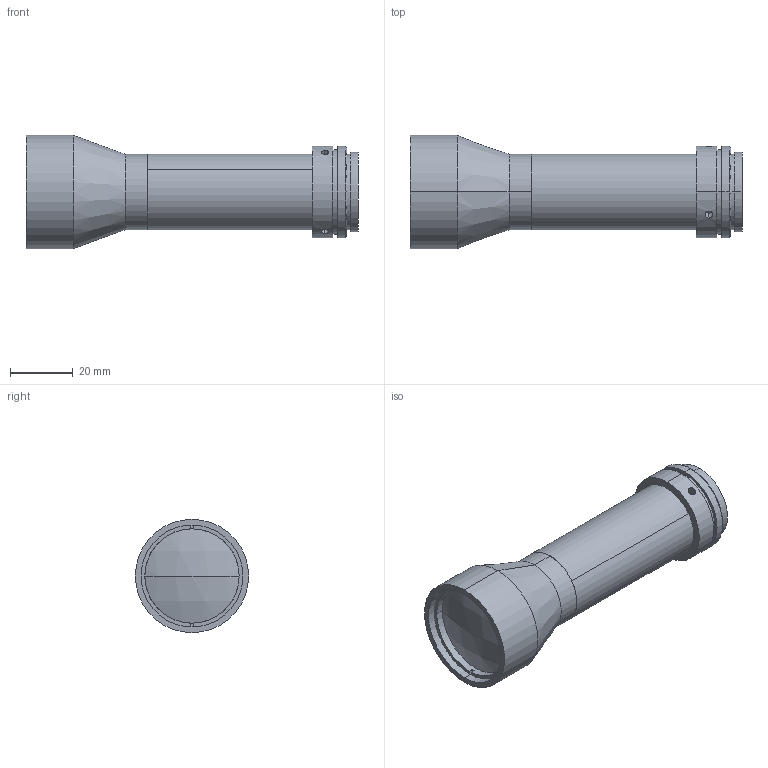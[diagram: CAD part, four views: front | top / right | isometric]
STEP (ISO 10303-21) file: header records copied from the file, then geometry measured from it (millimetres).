
FILE_DESCRIPTION (( 'STEP AP203' ), '1' );
FILE_NAME ('WD65HRT_05X_蚾饜芞_2012_410K_nV5.STEP', '2016-02-22T01:35:42', ( 'cherishsunshine' ), ( '' ), 'SwSTEP 2.0', 'SolidWorks 2014', '' );
FILE_SCHEMA (( 'CONFIG_CONTROL_DESIGN' ));
Length unit declared in the file: millimetre
Products named in the file (1): WD65HRT_05X_蚾饜芞_2012_410K_nV5
Bounding box: 105.56 x 36 x 36 mm (x, y, z)
Surface area: 13346.7 mm2 (no closed solid volume)
Topology: 0 solids, 7 shells, 58 faces, 142 edges, 95 vertices
Faces by surface type: cylinder 34, plane 18, cone 4, sphere 2
Entity records: 2007 total; most frequent: CARTESIAN_POINT 524, DIRECTION 324, ORIENTED_EDGE 246, EDGE_CURVE 142, AXIS2_PLACEMENT_3D 135, VERTEX_POINT 95, CIRCLE 76, EDGE_LOOP 71
